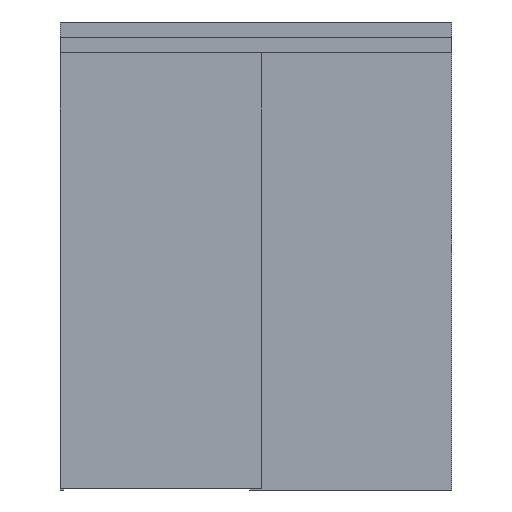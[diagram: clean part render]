
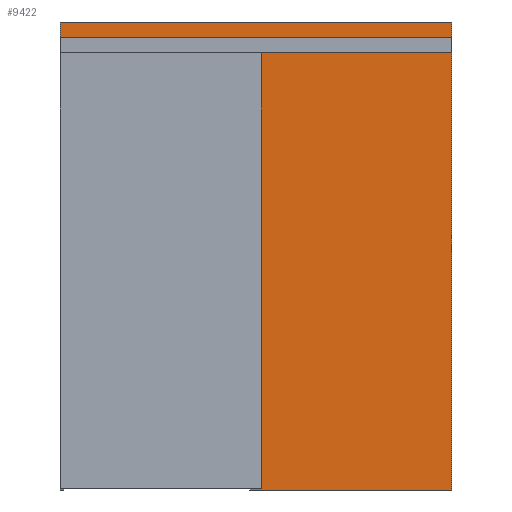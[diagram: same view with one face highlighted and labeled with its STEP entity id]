
A CAD part, front view. The second image highlights one B-rep face of the part: STEP entity #9422.
In plain terms, the highlighted planar face has unit normal (0, -1, 0).
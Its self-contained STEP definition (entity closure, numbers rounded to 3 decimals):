
#9422=ADVANCED_FACE('',(#15921),#15922,.T.);
#15921=FACE_OUTER_BOUND('',#25643,.T.);
#15922=PLANE('',#25644);
#25643=EDGE_LOOP('',(#29286,#29287,#29288,#29289,#29290,#29291,#29292,#29293));
#25644=AXIS2_PLACEMENT_3D('',#29294,#29295,#29296);
#29286=ORIENTED_EDGE('',*,*,#36776,.F.);
#29287=ORIENTED_EDGE('',*,*,#36774,.F.);
#29288=ORIENTED_EDGE('',*,*,#36770,.T.);
#29289=ORIENTED_EDGE('',*,*,#36768,.T.);
#29290=ORIENTED_EDGE('',*,*,#36765,.F.);
#29291=ORIENTED_EDGE('',*,*,#36762,.T.);
#29292=ORIENTED_EDGE('',*,*,#36759,.T.);
#29293=ORIENTED_EDGE('',*,*,#36746,.F.);
#29294=CARTESIAN_POINT('',(0.0,36.0,2400.0));
#29295=DIRECTION('',(0.0,-1.0,0.0));
#29296=DIRECTION('',(0.0,0.0,-1.0));
#36746=EDGE_CURVE('',#41302,#41305,#41306,.T.);
#36759=EDGE_CURVE('',#41325,#41305,#41327,.T.);
#36762=EDGE_CURVE('',#41329,#41325,#41331,.T.);
#36765=EDGE_CURVE('',#41329,#41333,#41335,.T.);
#36768=EDGE_CURVE('',#41337,#41333,#41339,.T.);
#36770=EDGE_CURVE('',#41341,#41337,#41342,.T.);
#36774=EDGE_CURVE('',#41341,#41345,#41347,.T.);
#36776=EDGE_CURVE('',#41345,#41302,#41349,.T.);
#41302=VERTEX_POINT('',#42210);
#41305=VERTEX_POINT('',#42214);
#41306=LINE('',#42215,#42216);
#41325=VERTEX_POINT('',#42244);
#41327=LINE('',#42247,#42248);
#41329=VERTEX_POINT('',#42250);
#41331=LINE('',#42253,#42254);
#41333=VERTEX_POINT('',#42256);
#41335=LINE('',#42259,#42260);
#41337=VERTEX_POINT('',#42262);
#41339=LINE('',#42265,#42266);
#41341=VERTEX_POINT('',#42268);
#41342=LINE('',#42269,#42270);
#41345=VERTEX_POINT('',#42274);
#41347=LINE('',#42277,#42278);
#41349=LINE('',#42280,#42281);
#42210=CARTESIAN_POINT('',(0.0,36.0,2448.0));
#42214=CARTESIAN_POINT('',(2050.0,36.0,2448.0));
#42215=CARTESIAN_POINT('',(0.0,36.0,2448.0));
#42216=VECTOR('',#43440,1.0);
#42244=CARTESIAN_POINT('',(2050.0,36.0,0.0));
#42247=CARTESIAN_POINT('',(2050.0,36.0,7.0));
#42248=VECTOR('',#43451,1.0);
#42250=CARTESIAN_POINT('',(993.0,36.0,0.0));
#42253=CARTESIAN_POINT('',(1327.5,36.0,0.0));
#42254=VECTOR('',#43453,1.0);
#42256=CARTESIAN_POINT('',(993.0,36.0,2288.0));
#42259=CARTESIAN_POINT('',(993.0,36.0,7.0));
#42260=VECTOR('',#43455,1.0);
#42262=CARTESIAN_POINT('',(20.0,36.0,2288.0));
#42265=CARTESIAN_POINT('',(0.0,36.0,2288.0));
#42266=VECTOR('',#43457,1.0);
#42268=CARTESIAN_POINT('',(20.0,36.0,0.0));
#42269=CARTESIAN_POINT('',(20.0,36.0,0.0));
#42270=VECTOR('',#43458,1.0);
#42274=CARTESIAN_POINT('',(0.0,36.0,0.0));
#42277=CARTESIAN_POINT('',(20.0,36.0,0.0));
#42278=VECTOR('',#43461,1.0);
#42280=CARTESIAN_POINT('',(0.0,36.0,1812.0));
#42281=VECTOR('',#43462,1.0);
#43440=DIRECTION('',(1.0,0.0,0.0));
#43451=DIRECTION('',(0.0,0.0,1.0));
#43453=DIRECTION('',(1.0,0.0,0.0));
#43455=DIRECTION('',(0.0,0.0,1.0));
#43457=DIRECTION('',(1.0,0.0,0.0));
#43458=DIRECTION('',(0.0,0.0,1.0));
#43461=DIRECTION('',(-1.0,0.0,0.0));
#43462=DIRECTION('',(0.0,0.0,1.0));
